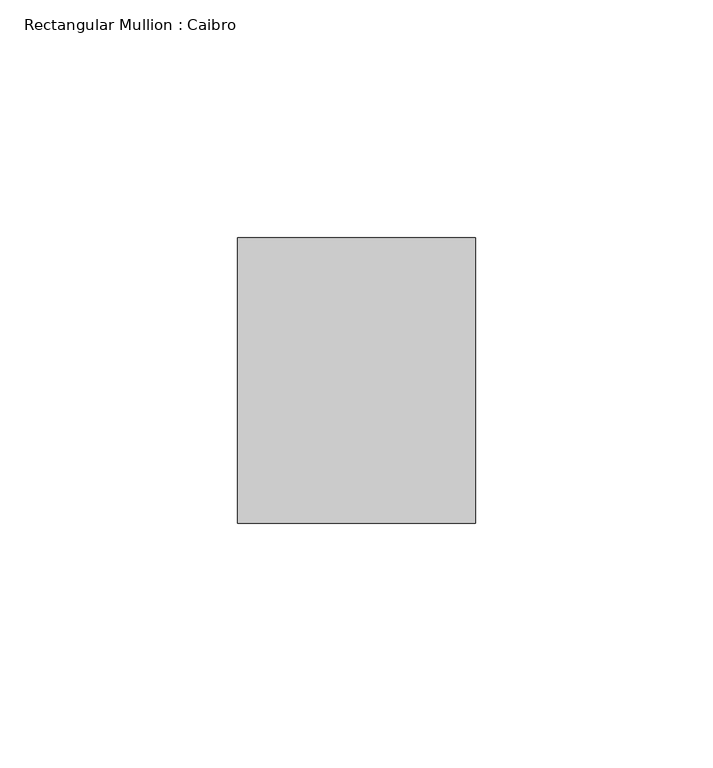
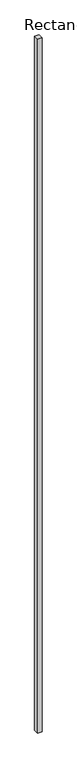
"""IFC4 building model written with IfcOpenShell, lengths in millimetres: member geometry, Rectangular Mullion : Caibro."""

from ifc_helpers import new_model, si_unit, frame, origin, place, context, project, spatial, polyline, outline, extrude, source, transform, mapped, element, save


def rectangular_mullion_caibro_7f7f9841(model_context):
    return source(origin(), model_context, "Body", "SweptSolid", [
        extrude(outline(polyline([(0.0, -60.0), (-50.0, -60.0), (-50.0, 0.0), (0.0, 0.0), (0.0, -60.0)])), frame((0.0, 0.0, -8478.8498048), z_axis=(0.0, 0.0, 1.0), x_axis=(1.0, 0.0, 0.0)), (0.0, 0.0, 1.0), 8478.8498048),
    ])


if __name__ == "__main__":
    model = new_model("IFC4")
    model_context = context("Model", 3, world=origin())
    ifc_project = project(units=[si_unit("LENGTHUNIT", "METRE", prefix="MILLI")], contexts=[model_context])
    site = spatial("IfcSite", under=ifc_project)
    building = spatial("IfcBuilding", under=site)
    placement = place(None, origin())
    rectangular_mullion_caibro_shape = rectangular_mullion_caibro_7f7f9841(model_context)
    element("IfcMember", 1, ObjectType="Rectangular Mullion : Caibro", at=placement, inside=building, context=model_context, shape_type="MappedRepresentation", body=[
        mapped(rectangular_mullion_caibro_shape, transform((0.0, 0.0, 0.0), x_axis=(1.0, 0.0, 0.0), y_axis=(0.0, 1.0, 0.0), z_axis=(0.0, 0.0, 1.0))),
    ])
    save(model, "model.ifc")
